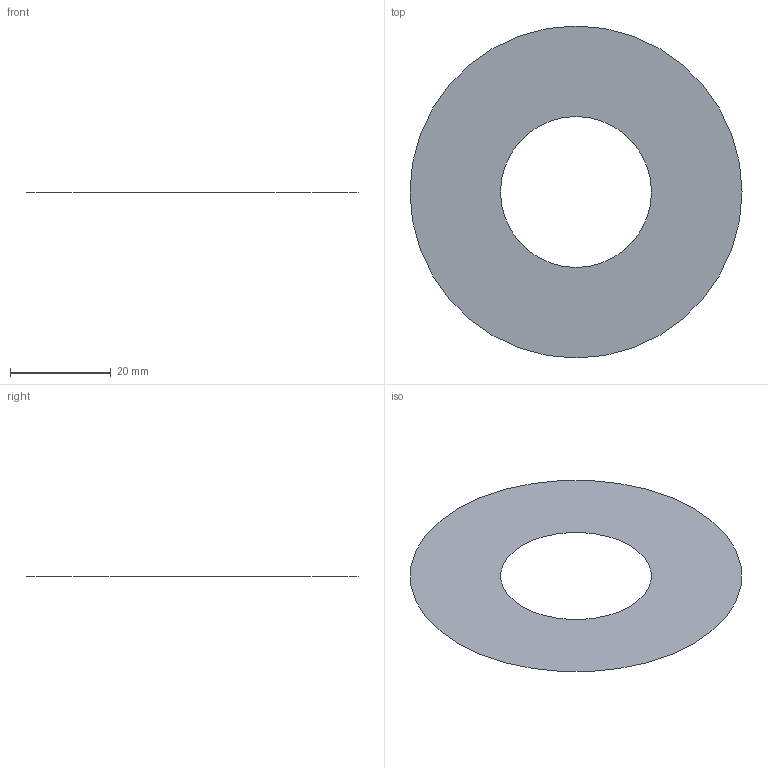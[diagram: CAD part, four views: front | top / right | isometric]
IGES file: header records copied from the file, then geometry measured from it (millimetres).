
Global section: file name: Filename.iges; native system: Open CASCADE 7.9; preprocessor: Open CASCADE IGES processor 7.9; author: HAKAN KARATEKE; date: 20261015.195651; units: millimetre
Bounding box: 66.01 x 66.01 x 0 mm (x, y, z)
Surface area: 2715 mm2 (no closed solid volume)
Topology: 0 solids, 0 shells, 1 faces, 2 edges, 2 vertices
Faces by surface type: plane 1
